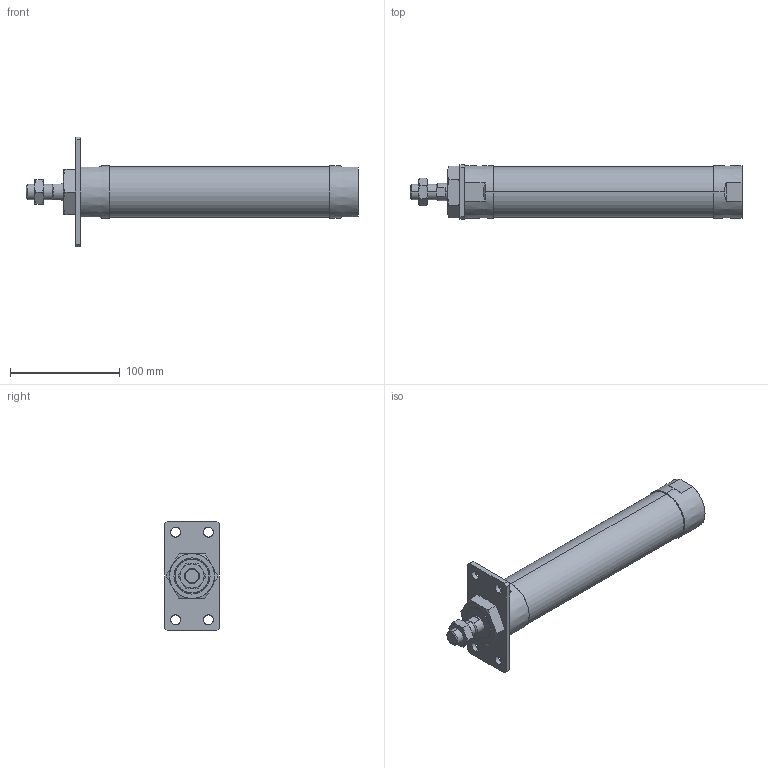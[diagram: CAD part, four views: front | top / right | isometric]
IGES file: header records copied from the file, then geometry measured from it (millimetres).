
Start section: SolidWorks IGES file using analytic representation for surfaces
Global section: file name: C:\Users\Toshiba\Desktop\JGND2-40-150-A.IGS; native system: SolidWorks 2014; preprocessor: SolidWorks 2014; author: Toshiba; date: 160804.111229; units: millimetre
Bounding box: 303 x 50 x 100 mm (x, y, z)
Surface area: 60571 mm2 (no closed solid volume)
Topology: 0 solids, 0 shells, 109 faces, 2174 edges, 2170 vertices
Faces by surface type: bspline 66, revolution 43
